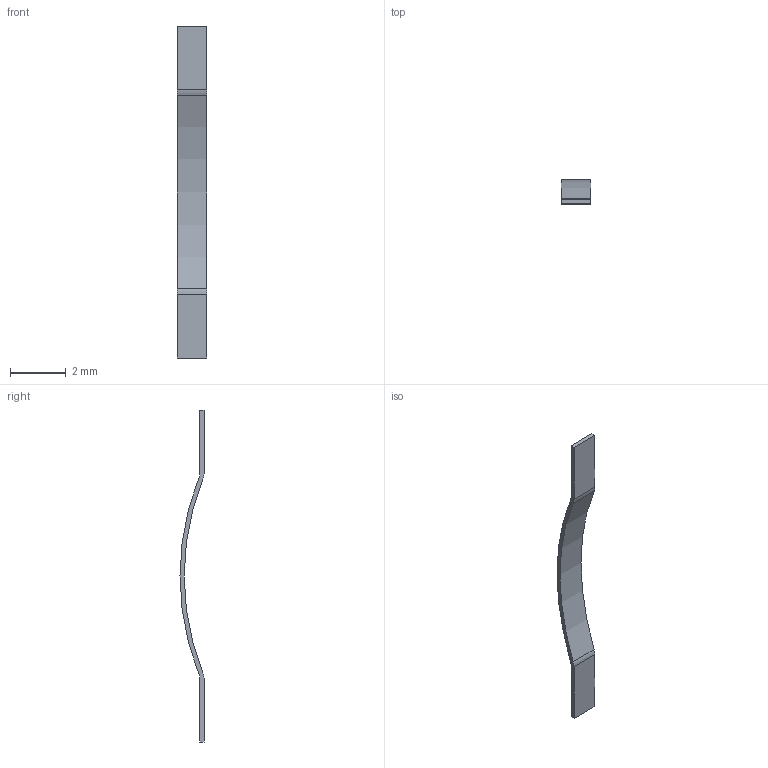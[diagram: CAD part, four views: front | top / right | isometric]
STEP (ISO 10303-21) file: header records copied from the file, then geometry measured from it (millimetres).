
FILE_DESCRIPTION((''),'2;1');
FILE_NAME('C-192039-5','2016-01-22T',('workeradm'),('Tyco Electronics Ltd.'),'CREO PARAMETRIC BY PTC INC, 2015200','CREO PARAMETRIC BY PTC INC, 2015200','');
FILE_SCHEMA(('AUTOMOTIVE_DESIGN { 1 0 10303 214 1 1 1 1 }'));
Length unit declared in the file: millimetre
Products named in the file (1): C-192039-5
Bounding box: 1.07 x 0.86 x 11.94 mm (x, y, z)
Volume: 2 mm3; surface area: 29.9 mm2
Topology: 1 solids, 1 shells, 14 faces, 36 edges, 24 vertices
Faces by surface type: plane 8, cylinder 6
Entity records: 476 total; most frequent: DIRECTION 76, CARTESIAN_POINT 76, ORIENTED_EDGE 72, EDGE_CURVE 36, AXIS2_PLACEMENT_3D 26, VECTOR 24, LINE 24, VERTEX_POINT 24
